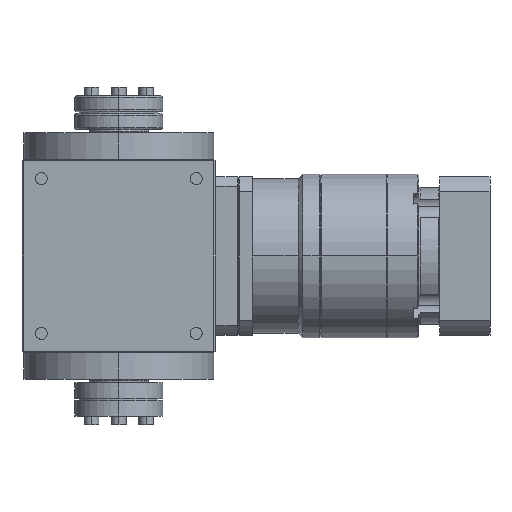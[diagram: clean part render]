
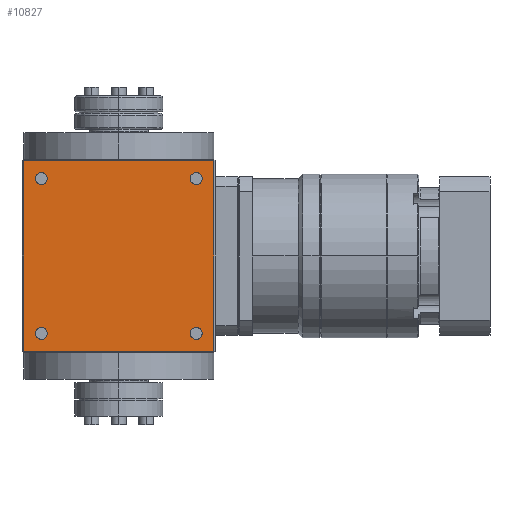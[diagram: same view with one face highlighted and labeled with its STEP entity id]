
A CAD part, left-side view. The second image highlights one B-rep face of the part: STEP entity #10827.
In plain terms, the highlighted planar face has unit normal (-1, 0, 0).
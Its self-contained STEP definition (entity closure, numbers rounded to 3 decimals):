
#39 = DIRECTION ( 'NONE',  ( 1., 0., 0. ) ) ;
#364 = EDGE_LOOP ( 'NONE', ( #4809, #11207 ) ) ;
#519 = DIRECTION ( 'NONE',  ( 0., 1., 0. ) ) ;
#717 = ORIENTED_EDGE ( 'NONE', *, *, #7990, .T. ) ;
#721 = CARTESIAN_POINT ( 'NONE',  ( -55., 44., 40.6 ) ) ;
#913 = PLANE ( 'NONE',  #20459 ) ;
#959 = AXIS2_PLACEMENT_3D ( 'NONE', #4723, #5985, #15993 ) ;
#991 = AXIS2_PLACEMENT_3D ( 'NONE', #14780, #39, #3303 ) ;
#1346 = CIRCLE ( 'NONE', #10067, 3.4 ) ;
#1444 = VERTEX_POINT ( 'NONE', #11289 ) ;
#1821 = DIRECTION ( 'NONE',  ( 1., 0., 0. ) ) ;
#1930 = CARTESIAN_POINT ( 'NONE',  ( -55., 54., -55. ) ) ;
#1951 = DIRECTION ( 'NONE',  ( 0., 0., 1. ) ) ;
#2604 = DIRECTION ( 'NONE',  ( 0., -1., 0. ) ) ;
#2852 = CARTESIAN_POINT ( 'NONE',  ( -55., -44., -44. ) ) ;
#2971 = CIRCLE ( 'NONE', #959, 3.4 ) ;
#2973 = VERTEX_POINT ( 'NONE', #18653 ) ;
#3244 = CARTESIAN_POINT ( 'NONE',  ( -55., -54., -54. ) ) ;
#3303 = DIRECTION ( 'NONE',  ( 0., 0., 1. ) ) ;
#3344 = CARTESIAN_POINT ( 'NONE',  ( -55., 54., 54. ) ) ;
#3471 = VECTOR ( 'NONE', #5085, 1000. ) ;
#3792 = CARTESIAN_POINT ( 'NONE',  ( -55., 44., -44. ) ) ;
#3831 = EDGE_CURVE ( 'NONE', #10722, #1444, #18414, .T. ) ;
#3902 = EDGE_LOOP ( 'NONE', ( #8686, #12079 ) ) ;
#3925 = DIRECTION ( 'NONE',  ( 0., 0., 1. ) ) ;
#4066 = CARTESIAN_POINT ( 'NONE',  ( -55., 44., 44. ) ) ;
#4485 = CARTESIAN_POINT ( 'NONE',  ( -55., -44., -40.6 ) ) ;
#4697 = EDGE_CURVE ( 'NONE', #19243, #19080, #20464, .T. ) ;
#4723 = CARTESIAN_POINT ( 'NONE',  ( -55., 44., -44. ) ) ;
#4809 = ORIENTED_EDGE ( 'NONE', *, *, #9626, .T. ) ;
#4878 = DIRECTION ( 'NONE',  ( 0., -1., 0. ) ) ;
#4948 = AXIS2_PLACEMENT_3D ( 'NONE', #12972, #1821, #8116 ) ;
#5085 = DIRECTION ( 'NONE',  ( 0., 0., -1. ) ) ;
#5652 = LINE ( 'NONE', #20073, #13773 ) ;
#5985 = DIRECTION ( 'NONE',  ( 1., 0., 0. ) ) ;
#6003 = AXIS2_PLACEMENT_3D ( 'NONE', #11733, #11625, #1951 ) ;
#6602 = VERTEX_POINT ( 'NONE', #3244 ) ;
#6759 = DIRECTION ( 'NONE',  ( 1., 0., 0. ) ) ;
#7350 = CARTESIAN_POINT ( 'NONE',  ( -55., 55., 54. ) ) ;
#7450 = CARTESIAN_POINT ( 'NONE',  ( -55., 44., 47.4 ) ) ;
#7818 = EDGE_CURVE ( 'NONE', #15075, #6602, #15725, .T. ) ;
#7822 = CARTESIAN_POINT ( 'NONE',  ( -55., 55., -54. ) ) ;
#7990 = EDGE_CURVE ( 'NONE', #18499, #15075, #8748, .T. ) ;
#8116 = DIRECTION ( 'NONE',  ( 0., 0., 1. ) ) ;
#8155 = ORIENTED_EDGE ( 'NONE', *, *, #7818, .T. ) ;
#8640 = CARTESIAN_POINT ( 'NONE',  ( -55., 44., 44. ) ) ;
#8686 = ORIENTED_EDGE ( 'NONE', *, *, #3831, .T. ) ;
#8748 = LINE ( 'NONE', #1930, #3471 ) ;
#9257 = ORIENTED_EDGE ( 'NONE', *, *, #4697, .T. ) ;
#9301 = EDGE_CURVE ( 'NONE', #18129, #13568, #12351, .T. ) ;
#9626 = EDGE_CURVE ( 'NONE', #17696, #2973, #14032, .T. ) ;
#9956 = EDGE_LOOP ( 'NONE', ( #9257, #15493 ) ) ;
#10047 = CARTESIAN_POINT ( 'NONE',  ( -55., -54., 54. ) ) ;
#10067 = AXIS2_PLACEMENT_3D ( 'NONE', #4066, #16906, #15119 ) ;
#10200 = LINE ( 'NONE', #7350, #14942 ) ;
#10383 = FACE_BOUND ( 'NONE', #3902, .T. ) ;
#10388 = CIRCLE ( 'NONE', #991, 3.4 ) ;
#10580 = EDGE_CURVE ( 'NONE', #1444, #10722, #2971, .T. ) ;
#10619 = DIRECTION ( 'NONE',  ( 1., 0., 0. ) ) ;
#10722 = VERTEX_POINT ( 'NONE', #13251 ) ;
#10827 = ADVANCED_FACE ( 'NONE', ( #13770, #15341, #10383, #13879, #19864 ), #913, .T. ) ;
#10990 = AXIS2_PLACEMENT_3D ( 'NONE', #8640, #6759, #3925 ) ;
#11011 = AXIS2_PLACEMENT_3D ( 'NONE', #3792, #12214, #16727 ) ;
#11032 = CARTESIAN_POINT ( 'NONE',  ( -55., -44., 47.4 ) ) ;
#11207 = ORIENTED_EDGE ( 'NONE', *, *, #19221, .T. ) ;
#11215 = EDGE_CURVE ( 'NONE', #19080, #19243, #10388, .T. ) ;
#11289 = CARTESIAN_POINT ( 'NONE',  ( -55., 44., -47.4 ) ) ;
#11552 = EDGE_LOOP ( 'NONE', ( #16664, #18867, #717, #8155 ) ) ;
#11591 = CARTESIAN_POINT ( 'NONE',  ( -55., -44., 40.6 ) ) ;
#11625 = DIRECTION ( 'NONE',  ( 1., 0., 0. ) ) ;
#11733 = CARTESIAN_POINT ( 'NONE',  ( -55., -44., 44. ) ) ;
#12079 = ORIENTED_EDGE ( 'NONE', *, *, #10580, .T. ) ;
#12113 = VERTEX_POINT ( 'NONE', #10047 ) ;
#12214 = DIRECTION ( 'NONE',  ( 1., 0., 0. ) ) ;
#12351 = CIRCLE ( 'NONE', #10990, 3.4 ) ;
#12972 = CARTESIAN_POINT ( 'NONE',  ( -55., -44., -44. ) ) ;
#13251 = CARTESIAN_POINT ( 'NONE',  ( -55., 44., -40.6 ) ) ;
#13568 = VERTEX_POINT ( 'NONE', #7450 ) ;
#13770 = FACE_OUTER_BOUND ( 'NONE', #11552, .T. ) ;
#13773 = VECTOR ( 'NONE', #15142, 1000. ) ;
#13785 = ORIENTED_EDGE ( 'NONE', *, *, #9301, .T. ) ;
#13846 = CIRCLE ( 'NONE', #16183, 3.4 ) ;
#13879 = FACE_BOUND ( 'NONE', #364, .T. ) ;
#14032 = CIRCLE ( 'NONE', #4948, 3.4 ) ;
#14214 = VECTOR ( 'NONE', #4878, 1000. ) ;
#14403 = EDGE_CURVE ( 'NONE', #12113, #18499, #10200, .T. ) ;
#14780 = CARTESIAN_POINT ( 'NONE',  ( -55., -44., 44. ) ) ;
#14942 = VECTOR ( 'NONE', #519, 1000. ) ;
#15075 = VERTEX_POINT ( 'NONE', #18015 ) ;
#15119 = DIRECTION ( 'NONE',  ( 0., 0., 1. ) ) ;
#15139 = CARTESIAN_POINT ( 'NONE',  ( -55., 55., -55. ) ) ;
#15142 = DIRECTION ( 'NONE',  ( 0., 0., 1. ) ) ;
#15341 = FACE_BOUND ( 'NONE', #9956, .T. ) ;
#15493 = ORIENTED_EDGE ( 'NONE', *, *, #11215, .T. ) ;
#15725 = LINE ( 'NONE', #7822, #14214 ) ;
#15963 = EDGE_CURVE ( 'NONE', #6602, #12113, #5652, .T. ) ;
#15993 = DIRECTION ( 'NONE',  ( 0., 0., 1. ) ) ;
#16183 = AXIS2_PLACEMENT_3D ( 'NONE', #2852, #10619, #18733 ) ;
#16320 = EDGE_CURVE ( 'NONE', #13568, #18129, #1346, .T. ) ;
#16664 = ORIENTED_EDGE ( 'NONE', *, *, #15963, .T. ) ;
#16727 = DIRECTION ( 'NONE',  ( 0., 0., 1. ) ) ;
#16906 = DIRECTION ( 'NONE',  ( 1., 0., 0. ) ) ;
#17116 = DIRECTION ( 'NONE',  ( -1., 0., 0. ) ) ;
#17696 = VERTEX_POINT ( 'NONE', #4485 ) ;
#18015 = CARTESIAN_POINT ( 'NONE',  ( -55., 54., -54. ) ) ;
#18052 = EDGE_LOOP ( 'NONE', ( #20641, #13785 ) ) ;
#18129 = VERTEX_POINT ( 'NONE', #721 ) ;
#18414 = CIRCLE ( 'NONE', #11011, 3.4 ) ;
#18499 = VERTEX_POINT ( 'NONE', #3344 ) ;
#18653 = CARTESIAN_POINT ( 'NONE',  ( -55., -44., -47.4 ) ) ;
#18733 = DIRECTION ( 'NONE',  ( 0., 0., 1. ) ) ;
#18867 = ORIENTED_EDGE ( 'NONE', *, *, #14403, .T. ) ;
#19080 = VERTEX_POINT ( 'NONE', #11591 ) ;
#19221 = EDGE_CURVE ( 'NONE', #2973, #17696, #13846, .T. ) ;
#19243 = VERTEX_POINT ( 'NONE', #11032 ) ;
#19864 = FACE_BOUND ( 'NONE', #18052, .T. ) ;
#20073 = CARTESIAN_POINT ( 'NONE',  ( -55., -54., -55. ) ) ;
#20459 = AXIS2_PLACEMENT_3D ( 'NONE', #15139, #17116, #2604 ) ;
#20464 = CIRCLE ( 'NONE', #6003, 3.4 ) ;
#20641 = ORIENTED_EDGE ( 'NONE', *, *, #16320, .T. ) ;
